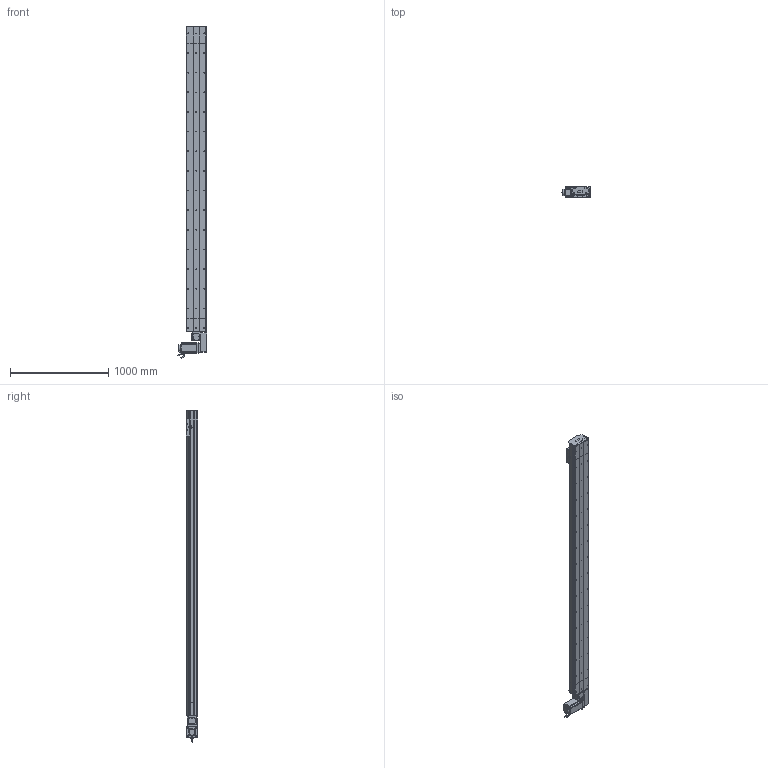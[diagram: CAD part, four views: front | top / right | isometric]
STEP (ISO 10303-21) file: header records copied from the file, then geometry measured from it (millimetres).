
FILE_DESCRIPTION (( 'STEP AP214' ), '1' );
FILE_NAME ('D20 TBH LH S2800.STEP', '2010-07-01T08:22:39', ( 'Conseil Régional Haute-Normandie' ), ( 'Conseil Régional Haute-Normandie' ), 'SwSTEP 2.0', 'SolidWorks 2010', '' );
FILE_SCHEMA (( 'AUTOMOTIVE_DESIGN' ));
Length unit declared in the file: millimetre
Products named in the file (40): Plaque racord D20LH_Default; Moteur motionking 110BLDC170A-640x; vis M5 L70_Default; poulie tail D20_Default; clavette; Conecteur2_Default; corps 110BLDC170A-630x; avant 110BLDC170A-630x; couvercle tail D20_Default; codeur 110BLDC170A-630x; vis M8 L12_Default; vis M5 L8 90°_Default; tail D20_Default; plaque de  bout tail D20_Default; Couroie tail D20_Default; vis M5 L25_Default; vis M5 L12_Default; rail tail D20; Conecteur_Default; corpl tail D20_Default; tete d''axe poulie D20B; plaque de  bout head D20B LH_Default; poulie head D20_Default; Renvoi LH D20_Default; chariot D20B_Default; rail head D20; D20 TBH LH S2800; couvercle D20 S2800_Default; vis M5 L5_Default; couroie_Default; cache D20_Default; cache arbre D20_Default; corp D20 S2800_Default; couvercle head D20_Default; Chariot D20B; Course B L2800_Default; guide D20B; corpl head D20_Default; head LH_Default; rail + couroie  D20 S2800
Assembly tree (71 placements, depth 4):
  D20 TBH LH S2800
    chariot D20B_Default
      guide D20B  x2
      vis M5 L12_Default  x4
      Chariot D20B
    head LH_Default
      cache D20_Default  x2
      vis M5 L12_Default  x10
      rail head D20
      corpl head D20_Default
      vis M5 L5_Default  x4
      vis M8 L12_Default  x4
      Moteur motionking 110BLDC170A-640x
        clavette
        Conecteur2_Default
        corps 110BLDC170A-630x
        avant 110BLDC170A-630x
        codeur 110BLDC170A-630x
        Conecteur_Default
      vis M5 L70_Default  x4
      plaque de  bout head D20B LH_Default
      vis M5 L25_Default  x2
      Renvoi LH D20_Default
      cache arbre D20_Default
      Plaque racord D20LH_Default
      poulie head D20_Default
      couvercle head D20_Default
      couroie_Default
    Course B L2800_Default
      corp D20 S2800_Default
      couvercle D20 S2800_Default
      rail + couroie  D20 S2800
    tail D20_Default
      corpl tail D20_Default
      vis M5 L25_Default  x2
      Couroie tail D20_Default
      poulie tail D20_Default
      vis M5 L12_Default  x4
      tete d''axe poulie D20B
      rail tail D20
      vis M5 L8 90°_Default  x2
      plaque de  bout tail D20_Default
      couvercle tail D20_Default
Bounding box: 304.2 x 115.7 x 3380 mm (x, y, z)
Volume: 25743646.9 mm3; surface area: 6325542.2 mm2
Topology: 95 solids, 95 shells, 2842 faces, 7284 edges, 4707 vertices
Faces by surface type: plane 1637, cylinder 881, bspline 136, cone 99, torus 89
Entity records: 91595 total; most frequent: CARTESIAN_POINT 29765, ORIENTED_EDGE 11224, DIRECTION 10547, EDGE_CURVE 5612, VERTEX_POINT 3693, LINE 3565, VECTOR 3565, AXIS2_PLACEMENT_3D 3491
